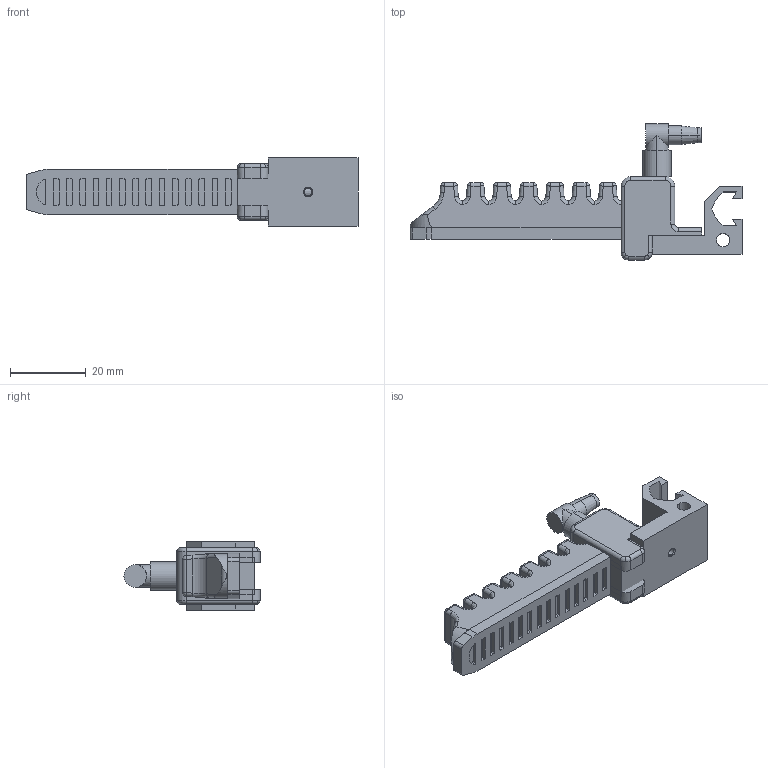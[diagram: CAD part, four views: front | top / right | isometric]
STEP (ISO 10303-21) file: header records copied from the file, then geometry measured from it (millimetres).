
FILE_DESCRIPTION (( 'STEP AP214' ), '1' );
FILE_NAME ('GFM-C8V5.STEP', '2019-12-04T06:04:48', ( '微软用户' ), ( '微软中国' ), 'SwSTEP 2.0', 'SolidWorks 2016', '' );
FILE_SCHEMA (( 'AUTOMOTIVE_DESIGN' ));
Length unit declared in the file: millimetre
Products named in the file (1): GFM-C8V5
Bounding box: 87.85 x 36 x 18 mm (x, y, z)
Volume: 15510.6 mm3; surface area: 10218.8 mm2
Topology: 4 solids, 4 shells, 443 faces, 1064 edges, 648 vertices
Faces by surface type: cylinder 200, plane 161, sphere 30, bspline 30, torus 14, cone 8
Entity records: 19774 total; most frequent: CARTESIAN_POINT 4625, DIRECTION 2166, ORIENTED_EDGE 2128, EDGE_CURVE 1064, AXIS2_PLACEMENT_3D 789, VERTEX_POINT 648, LINE 588, VECTOR 588
